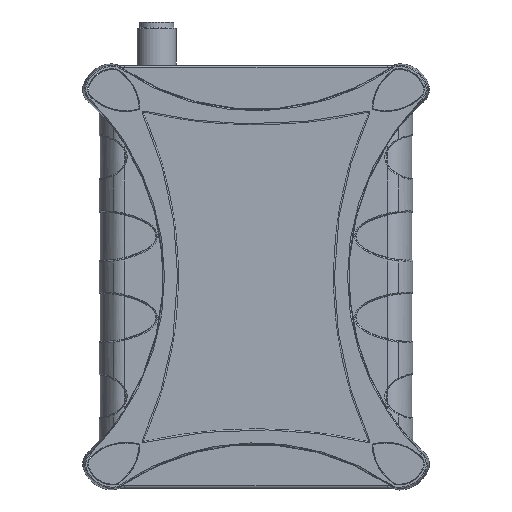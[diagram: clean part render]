
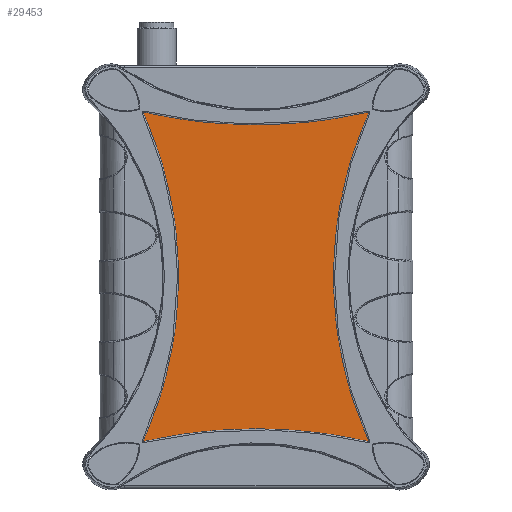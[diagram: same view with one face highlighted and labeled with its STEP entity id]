
A CAD part, front view. The second image highlights one B-rep face of the part: STEP entity #29453.
In plain terms, the highlighted planar face has unit normal (0, -1, 0).
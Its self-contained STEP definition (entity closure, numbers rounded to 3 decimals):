
#18 = FACE_OUTER_BOUND ( 'NONE', #4790, .T. ) ;
#309 = AXIS2_PLACEMENT_3D ( 'NONE', #33939, #78024, #40285 ) ;
#1023 = ORIENTED_EDGE ( 'NONE', *, *, #37725, .T. ) ;
#2018 = CARTESIAN_POINT ( 'NONE',  ( 45.848, -14.503, 66.552 ) ) ;
#2170 = DIRECTION ( 'NONE',  ( 0., 0., 1. ) ) ;
#2553 = CARTESIAN_POINT ( 'NONE',  ( -193.253, -14.503, -0.064 ) ) ;
#2572 = CARTESIAN_POINT ( 'NONE',  ( -45.754, -14.503, -67.017 ) ) ;
#3172 = DIRECTION ( 'NONE',  ( 0., 1., 0. ) ) ;
#4483 = ORIENTED_EDGE ( 'NONE', *, *, #81169, .T. ) ;
#4790 = EDGE_LOOP ( 'NONE', ( #26887, #4483, #11707, #1023, #48932, #71502, #43758, #65124, #10522 ) ) ;
#4975 = CIRCLE ( 'NONE', #309, 203.306 ) ;
#5153 = CARTESIAN_POINT ( 'NONE',  ( -45.56, -14.503, -67.03 ) ) ;
#7560 = EDGE_CURVE ( 'NONE', #66471, #14545, #21060, .T. ) ;
#8322 = CARTESIAN_POINT ( 'NONE',  ( 45.754, -14.503, 66.89 ) ) ;
#8660 = CARTESIAN_POINT ( 'NONE',  ( -45.848, -14.503, -66.679 ) ) ;
#8908 = DIRECTION ( 'NONE',  ( 0., 0., 1. ) ) ;
#8927 = CARTESIAN_POINT ( 'NONE',  ( -45.56, -14.503, -67.03 ) ) ;
#10522 = ORIENTED_EDGE ( 'NONE', *, *, #20358, .T. ) ;
#10888 = B_SPLINE_CURVE_WITH_KNOTS ( 'NONE', 3,
 ( #51475, #57838, #20019, #64168, #26347, #70461 ),
 .UNSPECIFIED., .F., .F.,
 ( 4, 2, 4 ),
 ( 0., 0., 0.001 ),
 .UNSPECIFIED. ) ;
#11707 = ORIENTED_EDGE ( 'NONE', *, *, #63920, .T. ) ;
#12928 = VERTEX_POINT ( 'NONE', #29349 ) ;
#14545 = VERTEX_POINT ( 'NONE', #81025 ) ;
#14635 = CARTESIAN_POINT ( 'NONE',  ( 45.56, -14.503, 66.903 ) ) ;
#14798 = AXIS2_PLACEMENT_3D ( 'NONE', #2553, #46679, #8908 ) ;
#17701 = VERTEX_POINT ( 'NONE', #2018 ) ;
#17947 = CARTESIAN_POINT ( 'NONE',  ( 193.253, -14.503, -0.064 ) ) ;
#18261 = CARTESIAN_POINT ( 'NONE',  ( 45.848, -14.503, -66.679 ) ) ;
#20019 = CARTESIAN_POINT ( 'NONE',  ( -45.753, -14.503, 66.89 ) ) ;
#20358 = EDGE_CURVE ( 'NONE', #12928, #66471, #70141, .T. ) ;
#20982 = VERTEX_POINT ( 'NONE', #40555 ) ;
#21060 = CIRCLE ( 'NONE', #27104, 203.306 ) ;
#21692 = B_SPLINE_CURVE_WITH_KNOTS ( 'NONE', 3,
 ( #28978, #48033, #67325, #29530, #73655, #35893 ),
 .UNSPECIFIED., .F., .F.,
 ( 4, 2, 4 ),
 ( 0., 0., 0.001 ),
 .UNSPECIFIED. ) ;
#24304 = DIRECTION ( 'NONE',  ( 0., 0., 1. ) ) ;
#25054 = EDGE_CURVE ( 'NONE', #64038, #20982, #4975, .T. ) ;
#26347 = CARTESIAN_POINT ( 'NONE',  ( -45.887, -14.503, 66.638 ) ) ;
#26878 = CARTESIAN_POINT ( 'NONE',  ( -53.34, -14.503, -104.095 ) ) ;
#26887 = ORIENTED_EDGE ( 'NONE', *, *, #7560, .T. ) ;
#27104 = AXIS2_PLACEMENT_3D ( 'NONE', #77704, #39965, #2170 ) ;
#27992 = AXIS2_PLACEMENT_3D ( 'NONE', #40980, #3172, #47301 ) ;
#28978 = CARTESIAN_POINT ( 'NONE',  ( 45.56, -14.503, -67.03 ) ) ;
#29349 = CARTESIAN_POINT ( 'NONE',  ( -45.848, -14.503, -66.679 ) ) ;
#29453 = ADVANCED_FACE ( 'NONE', ( #18 ), #64151, .T. ) ;
#29530 = CARTESIAN_POINT ( 'NONE',  ( 45.873, -14.503, -66.871 ) ) ;
#29669 = VERTEX_POINT ( 'NONE', #18261 ) ;
#31949 = CIRCLE ( 'NONE', #27992, 203.306 ) ;
#33236 = DIRECTION ( 'NONE',  ( 0., 0., -1. ) ) ;
#33521 = CARTESIAN_POINT ( 'NONE',  ( -45.848, -14.503, 66.552 ) ) ;
#33939 = CARTESIAN_POINT ( 'NONE',  ( 0., -14.503, 265.039 ) ) ;
#35307 = AXIS2_PLACEMENT_3D ( 'NONE', #26878, #70986, #33236 ) ;
#35893 = CARTESIAN_POINT ( 'NONE',  ( 45.848, -14.503, -66.679 ) ) ;
#37725 = EDGE_CURVE ( 'NONE', #29669, #17701, #62889, .T. ) ;
#39759 = CARTESIAN_POINT ( 'NONE',  ( 45.848, -14.503, 66.552 ) ) ;
#39965 = DIRECTION ( 'NONE',  ( 0., 1., 0. ) ) ;
#40095 = CARTESIAN_POINT ( 'NONE',  ( -45.887, -14.503, -66.765 ) ) ;
#40285 = DIRECTION ( 'NONE',  ( 0., 0., 1. ) ) ;
#40369 = CARTESIAN_POINT ( 'NONE',  ( -45.873, -14.503, -66.871 ) ) ;
#40555 = CARTESIAN_POINT ( 'NONE',  ( -45.56, -14.503, 66.903 ) ) ;
#40980 = CARTESIAN_POINT ( 'NONE',  ( 0., -14.503, -265.166 ) ) ;
#43243 = EDGE_CURVE ( 'NONE', #20982, #71426, #10888, .T. ) ;
#43758 = ORIENTED_EDGE ( 'NONE', *, *, #43243, .T. ) ;
#44839 = EDGE_CURVE ( 'NONE', #71426, #12928, #76321, .T. ) ;
#46107 = CARTESIAN_POINT ( 'NONE',  ( 45.873, -14.503, 66.744 ) ) ;
#46679 = DIRECTION ( 'NONE',  ( 0., 1., 0. ) ) ;
#46696 = CARTESIAN_POINT ( 'NONE',  ( -45.652, -14.503, -67.052 ) ) ;
#47301 = DIRECTION ( 'NONE',  ( 0., 0., 1. ) ) ;
#48033 = CARTESIAN_POINT ( 'NONE',  ( 45.652, -14.503, -67.052 ) ) ;
#48932 = ORIENTED_EDGE ( 'NONE', *, *, #58144, .T. ) ;
#51099 = CARTESIAN_POINT ( 'NONE',  ( 45.887, -14.503, 66.638 ) ) ;
#51475 = CARTESIAN_POINT ( 'NONE',  ( -45.56, -14.503, 66.903 ) ) ;
#52449 = CARTESIAN_POINT ( 'NONE',  ( 45.652, -14.503, 66.925 ) ) ;
#54386 = CARTESIAN_POINT ( 'NONE',  ( 45.56, -14.503, -67.03 ) ) ;
#55765 = AXIS2_PLACEMENT_3D ( 'NONE', #17947, #62137, #24304 ) ;
#57838 = CARTESIAN_POINT ( 'NONE',  ( -45.652, -14.503, 66.925 ) ) ;
#58144 = EDGE_CURVE ( 'NONE', #17701, #64038, #65689, .T. ) ;
#62137 = DIRECTION ( 'NONE',  ( 0., 1., 0. ) ) ;
#62889 = CIRCLE ( 'NONE', #55765, 161.759 ) ;
#63920 = EDGE_CURVE ( 'NONE', #75645, #29669, #21692, .T. ) ;
#64038 = VERTEX_POINT ( 'NONE', #70557 ) ;
#64151 = PLANE ( 'NONE',  #35307 ) ;
#64168 = CARTESIAN_POINT ( 'NONE',  ( -45.873, -14.503, 66.744 ) ) ;
#65124 = ORIENTED_EDGE ( 'NONE', *, *, #44839, .T. ) ;
#65689 = B_SPLINE_CURVE_WITH_KNOTS ( 'NONE', 3,
 ( #39759, #51099, #46107, #8322, #52449, #14635 ),
 .UNSPECIFIED., .F., .F.,
 ( 4, 2, 4 ),
 ( 0., 0., 0.001 ),
 .UNSPECIFIED. ) ;
#66471 = VERTEX_POINT ( 'NONE', #5153 ) ;
#67325 = CARTESIAN_POINT ( 'NONE',  ( 45.753, -14.503, -67.017 ) ) ;
#70141 = B_SPLINE_CURVE_WITH_KNOTS ( 'NONE', 3,
 ( #8660, #40095, #40369, #2572, #46696, #8927 ),
 .UNSPECIFIED., .F., .F.,
 ( 4, 2, 4 ),
 ( 0., 0., 0.001 ),
 .UNSPECIFIED. ) ;
#70461 = CARTESIAN_POINT ( 'NONE',  ( -45.848, -14.503, 66.552 ) ) ;
#70557 = CARTESIAN_POINT ( 'NONE',  ( 45.56, -14.503, 66.903 ) ) ;
#70986 = DIRECTION ( 'NONE',  ( 0., -1., 0. ) ) ;
#71426 = VERTEX_POINT ( 'NONE', #33521 ) ;
#71502 = ORIENTED_EDGE ( 'NONE', *, *, #25054, .T. ) ;
#73655 = CARTESIAN_POINT ( 'NONE',  ( 45.887, -14.503, -66.765 ) ) ;
#75645 = VERTEX_POINT ( 'NONE', #54386 ) ;
#76321 = CIRCLE ( 'NONE', #14798, 161.759 ) ;
#77704 = CARTESIAN_POINT ( 'NONE',  ( 0., -14.503, -265.166 ) ) ;
#78024 = DIRECTION ( 'NONE',  ( 0., 1., 0. ) ) ;
#81025 = CARTESIAN_POINT ( 'NONE',  ( 0., -14.503, -61.86 ) ) ;
#81169 = EDGE_CURVE ( 'NONE', #14545, #75645, #31949, .T. ) ;
